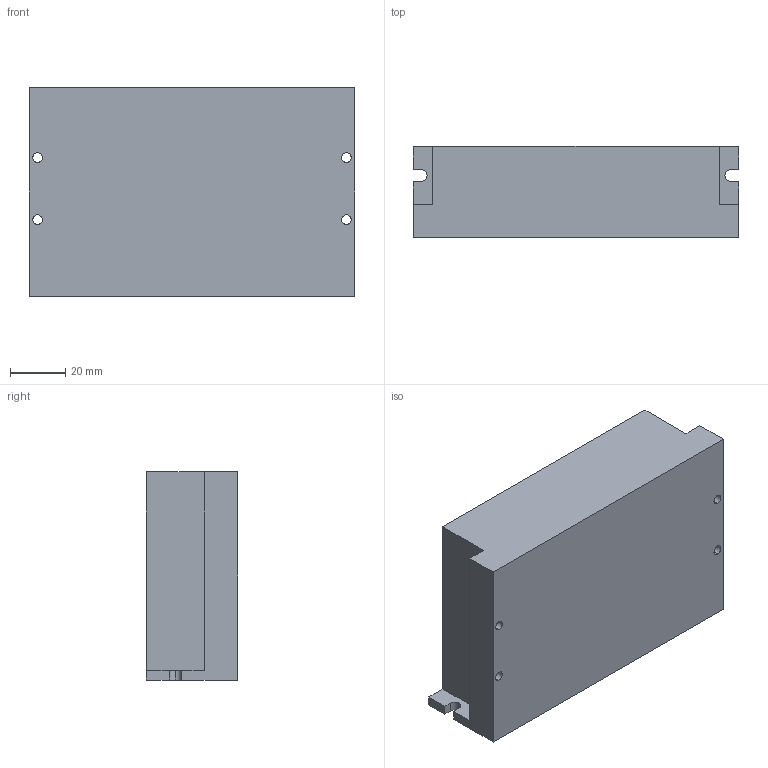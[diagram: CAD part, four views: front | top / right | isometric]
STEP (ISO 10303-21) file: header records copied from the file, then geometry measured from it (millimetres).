
FILE_DESCRIPTION (( 'STEP AP214' ), '1' );
FILE_NAME ('R60.STEP', '2021-01-23T08:40:25', ( 'wimxt.com' ), ( 'wimxt.com' ), 'SwSTEP 2.0', 'SolidWorks 2014', '' );
FILE_SCHEMA (( 'AUTOMOTIVE_DESIGN' ));
Length unit declared in the file: millimetre
Products named in the file (1): R60
Bounding box: 118 x 33 x 75.5 mm (x, y, z)
Volume: 271801.5 mm3; surface area: 31015 mm2
Topology: 1 solids, 1 shells, 29 faces, 81 edges, 54 vertices
Faces by surface type: plane 18, cylinder 11
Entity records: 987 total; most frequent: CARTESIAN_POINT 165, DIRECTION 163, ORIENTED_EDGE 162, EDGE_CURVE 81, VECTOR 59, LINE 59, VERTEX_POINT 54, AXIS2_PLACEMENT_3D 52
